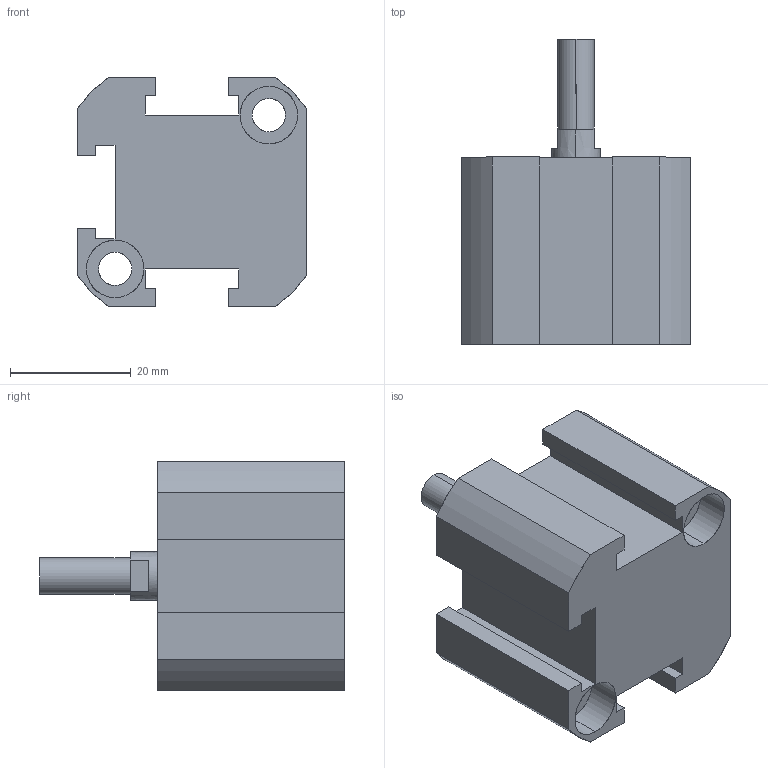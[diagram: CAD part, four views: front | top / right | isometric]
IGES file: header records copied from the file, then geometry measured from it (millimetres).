
Start section: SolidWorks IGES file using analytic representation for surfaces
Global section: file name: C:\Users\Toshiba\Desktop\XC#M0-20-10.IGS; native system: SolidWorks 2014; preprocessor: SolidWorks 2014; author: Toshiba; date: 160523.163228; units: millimetre
Bounding box: 38 x 50.5 x 38 mm (x, y, z)
Surface area: 10478.8 mm2 (no closed solid volume)
Topology: 0 solids, 0 shells, 85 faces, 1241 edges, 1239 vertices
Faces by surface type: bspline 46, revolution 39
